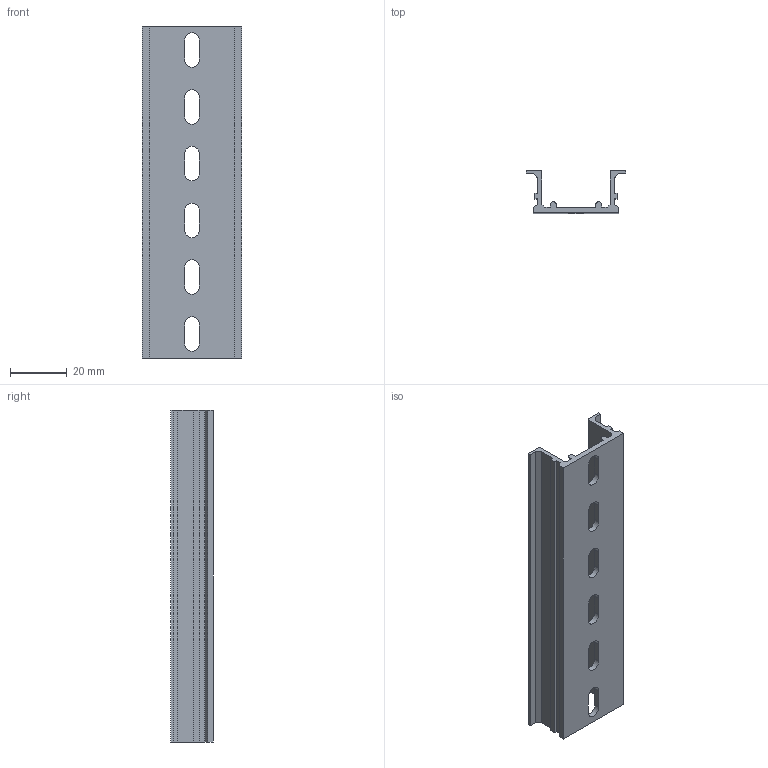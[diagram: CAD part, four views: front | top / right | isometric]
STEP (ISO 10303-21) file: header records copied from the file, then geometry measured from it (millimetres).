
FILE_DESCRIPTION(/* description */ (''),/* implementation_level */ '2;1');
FILE_NAME(/* name */ '22646-(TKB KD-6)HP 3D.stp',/* time_stamp */ '2024-12-05T13:57:56+09:00',/* author */ ('usercadg104'),/* organization */ (''),/* preprocessor_version */ 'ST-DEVELOPER v19.2',/* originating_system */ 'Autodesk Inventor 2023',/* authorisation */ '');
FILE_SCHEMA (('CONFIG_CONTROL_DESIGN'));
Length unit declared in the file: millimetre
Products named in the file (1): 22646-(TKB KD-6)HP 3D
Bounding box: 35 x 15 x 117 mm (x, y, z)
Volume: 13674.1 mm3; surface area: 16009 mm2
Topology: 1 solids, 1 shells, 64 faces, 186 edges, 124 vertices
Faces by surface type: plane 48, cylinder 16
Entity records: 2169 total; most frequent: CARTESIAN_POINT 375, ORIENTED_EDGE 372, DIRECTION 348, EDGE_CURVE 186, LINE 154, VECTOR 154, VERTEX_POINT 124, AXIS2_PLACEMENT_3D 97
